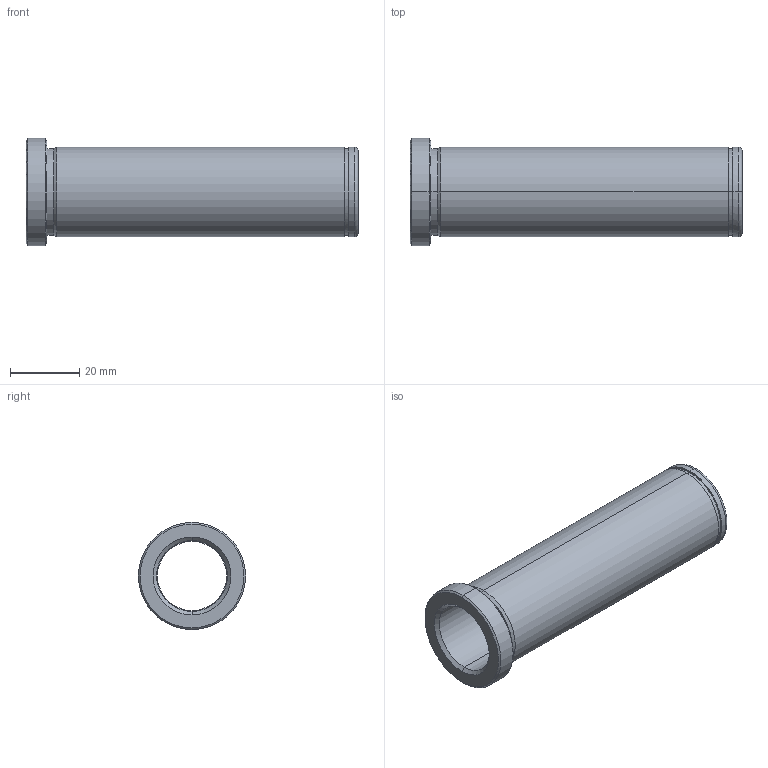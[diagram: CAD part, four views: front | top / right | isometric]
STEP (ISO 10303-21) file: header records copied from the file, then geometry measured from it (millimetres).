
FILE_DESCRIPTION(('CATIA V5 STEP Exchange'),'2;1');
FILE_NAME('C:\Users\Utente\Desktop\IO LAVORO\3D X SITO CF\X SITO\PLASTICA\553\553-20X96.stp','2021-05-23T17:57:44+00:00',('none'),('none'),'CATIA Version 5 Release 20 GA (IN-10)','CATIA V5 STEP AP203','none');
FILE_SCHEMA(('CONFIG_CONTROL_DESIGN'));
Length unit declared in the file: millimetre
Products named in the file (1): 553-20X96
Bounding box: 96 x 31 x 31 mm (x, y, z)
Volume: 21261.1 mm3; surface area: 14861.7 mm2
Topology: 1 solids, 1 shells, 32 faces, 102 edges, 76 vertices
Faces by surface type: cylinder 14, cone 8, plane 6, torus 4
Entity records: 1334 total; most frequent: CARTESIAN_POINT 389, ORIENTED_EDGE 204, DIRECTION 152, EDGE_CURVE 102, AXIS2_PLACEMENT_3D 99, VERTEX_POINT 76, CIRCLE 66, EDGE_LOOP 38
